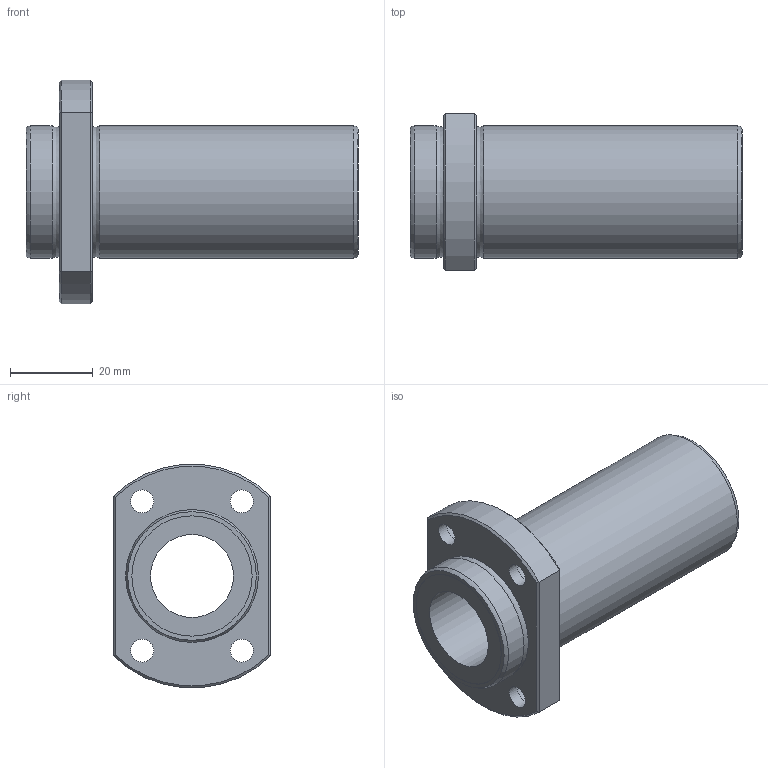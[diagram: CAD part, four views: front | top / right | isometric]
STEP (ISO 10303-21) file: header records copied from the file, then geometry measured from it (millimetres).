
FILE_DESCRIPTION((''),'2;1');
FILE_NAME('D:\製品 (図面)\カタログ用3D\リニアベアリング関連\STEP形式\LFDTB\LFDTB20B.stp','2010-06-03T09:51:54',('Tsuchiya'),(''),'Autodesk Inventor 10','Autodesk Inventor 10','');
FILE_SCHEMA(('AUTOMOTIVE_DESIGN { 1 0 10303 214 1 1 1 1 }'));
Length unit declared in the file: millimetre
Products named in the file (1): LFDTB20B
Bounding box: 80 x 38 x 53.8 mm (x, y, z)
Volume: 45848.3 mm3; surface area: 17152.3 mm2
Topology: 1 solids, 1 shells, 39 faces, 75 edges, 46 vertices
Faces by surface type: bspline 14, plane 12, cylinder 7, cone 4, torus 2
Full cylindrical faces by diameter (mm): 20 x1, 29 x2, 32 x2
Entity records: 1177 total; most frequent: CARTESIAN_POINT 440, DIRECTION 140, ORIENTED_EDGE 116, EDGE_LOOP 74, AXIS2_PLACEMENT_3D 64, EDGE_CURVE 58, VERTEX_POINT 46, FACE_OUTER_BOUND 39
